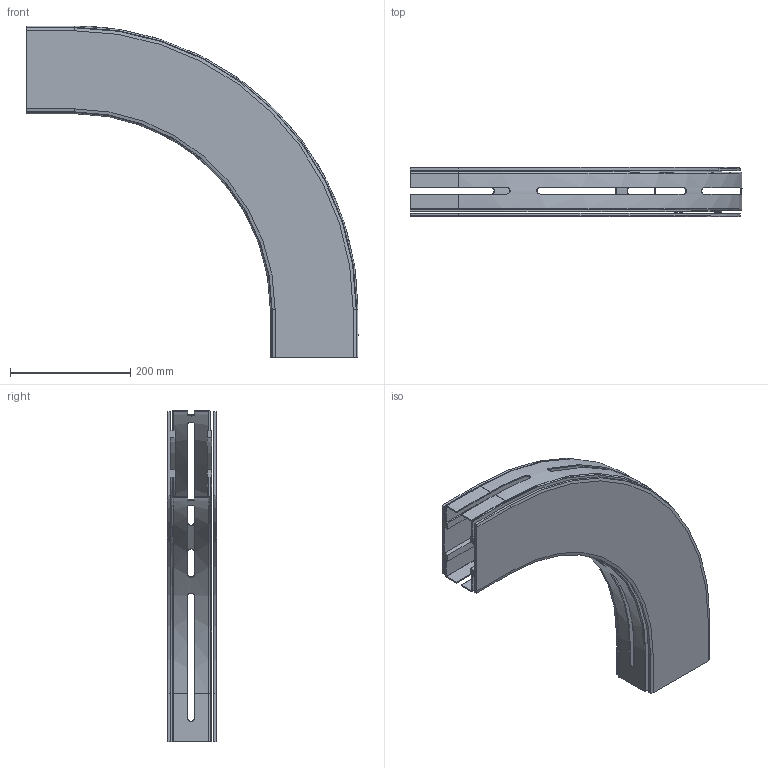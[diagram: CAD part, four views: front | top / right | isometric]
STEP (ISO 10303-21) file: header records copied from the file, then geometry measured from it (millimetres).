
FILE_DESCRIPTION((''),'2;1');
FILE_NAME('C:\Vault Klient\Projekt\Koncept konstruktion\Serie 540 Balk\540-5260.stp','2010-11-24T15:33:06',('Mathias'),(''),'Autodesk Inventor 2011','Autodesk Inventor 2011','');
FILE_SCHEMA(('AUTOMOTIVE_DESIGN { 1 0 10303 214 1 1 1 1 }'));
Length unit declared in the file: millimetre
Products named in the file (1): 540-5260
Bounding box: 553 x 82 x 553 mm (x, y, z)
Volume: 1779215.2 mm3; surface area: 916312.7 mm2
Topology: 2 solids, 2 shells, 171 faces, 482 edges, 316 vertices
Faces by surface type: plane 111, cylinder 28, bspline 22, cone 6, torus 4
Entity records: 6078 total; most frequent: CARTESIAN_POINT 1620, ORIENTED_EDGE 964, DIRECTION 830, EDGE_CURVE 482, VECTOR 346, LINE 346, VERTEX_POINT 316, AXIS2_PLACEMENT_3D 242
